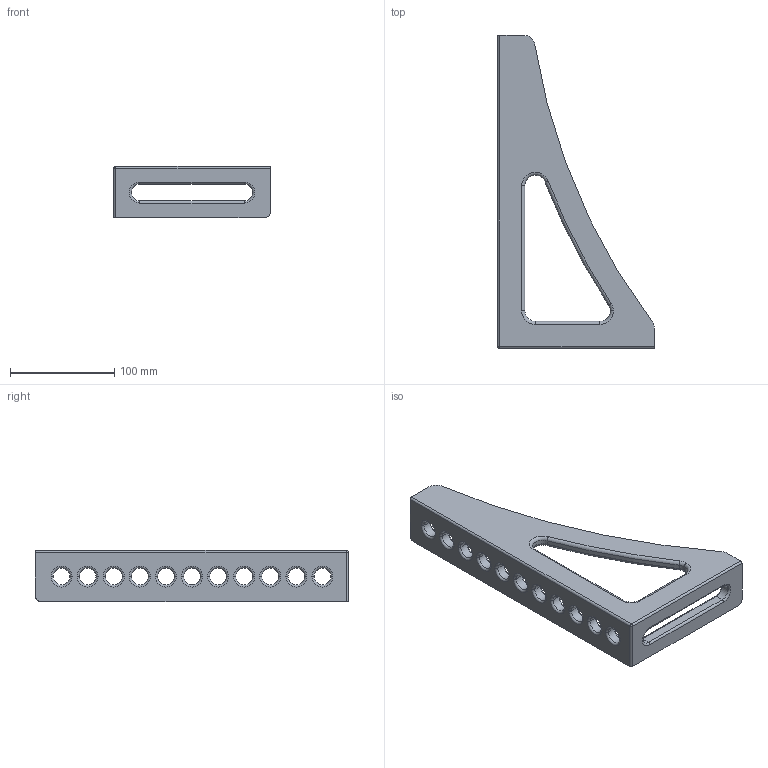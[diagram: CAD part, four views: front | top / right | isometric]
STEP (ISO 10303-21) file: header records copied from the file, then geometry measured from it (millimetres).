
FILE_DESCRIPTION (( 'STEP AP203' ), '1' );
FILE_NAME ('160162.STEP', '2020-07-07T14:45:32', ( '' ), ( '' ), 'SwSTEP 2.0', 'SolidWorks 2019', '' );
FILE_SCHEMA (( 'CONFIG_CONTROL_DESIGN' ));
Length unit declared in the file: millimetre
Products named in the file (1): 160162
Bounding box: 150 x 300 x 49 mm (x, y, z)
Volume: 346380.8 mm3; surface area: 82620.9 mm2
Topology: 1 solids, 1 shells, 168 faces, 408 edges, 251 vertices
Faces by surface type: cylinder 77, torus 41, plane 27, cone 22, sphere 1
Entity records: 5115 total; most frequent: DIRECTION 1003, CARTESIAN_POINT 842, ORIENTED_EDGE 814, AXIS2_PLACEMENT_3D 432, EDGE_CURVE 407, CIRCLE 263, VERTEX_POINT 251, EDGE_LOOP 204
